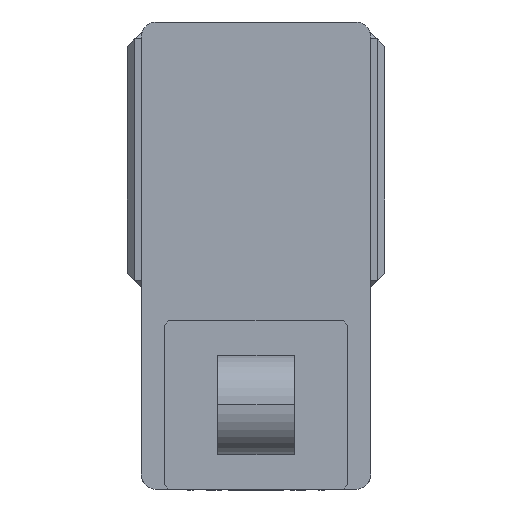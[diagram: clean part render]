
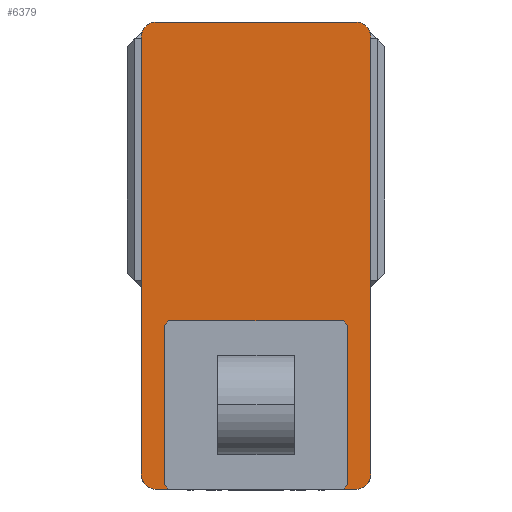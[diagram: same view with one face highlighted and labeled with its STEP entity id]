
A CAD part, left-side view. The second image highlights one B-rep face of the part: STEP entity #6379.
In plain terms, the highlighted planar face has unit normal (-1, 0, 0) as drawn and (0, 0, 1) by its records, which use the part's own axes.
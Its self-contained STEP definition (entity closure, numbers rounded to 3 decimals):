
#462 = PLANE ( 'NONE',  #1752 ) ;
#584 = ORIENTED_EDGE ( 'NONE', *, *, #8175, .T. ) ;
#708 = ORIENTED_EDGE ( 'NONE', *, *, #2287, .T. ) ;
#865 = CARTESIAN_POINT ( 'NONE',  ( 75., 152.5, 105. ) ) ;
#1254 = LINE ( 'NONE', #7892, #10088 ) ;
#1323 = DIRECTION ( 'NONE',  ( 0., 0., 1. ) ) ;
#1492 = CARTESIAN_POINT ( 'NONE',  ( -75., 152.5, 105. ) ) ;
#1527 = VERTEX_POINT ( 'NONE', #7655 ) ;
#1752 = AXIS2_PLACEMENT_3D ( 'NONE', #10730, #1323, #7316 ) ;
#1866 = VECTOR ( 'NONE', #6585, 1000. ) ;
#2287 = EDGE_CURVE ( 'NONE', #1527, #10214, #10400, .T. ) ;
#2454 = VERTEX_POINT ( 'NONE', #7304 ) ;
#2813 = CARTESIAN_POINT ( 'NONE',  ( -65., -142.5, 105. ) ) ;
#2832 = CARTESIAN_POINT ( 'NONE',  ( 75., 142.5, 105. ) ) ;
#3036 = DIRECTION ( 'NONE',  ( 0., 0., 1. ) ) ;
#3281 = EDGE_LOOP ( 'NONE', ( #3464, #6760, #3964, #584, #4575, #6706, #5115, #708 ) ) ;
#3464 = ORIENTED_EDGE ( 'NONE', *, *, #9684, .T. ) ;
#3621 = CARTESIAN_POINT ( 'NONE',  ( -65., 142.5, 105. ) ) ;
#3630 = EDGE_CURVE ( 'NONE', #7857, #2454, #4715, .T. ) ;
#3672 = DIRECTION ( 'NONE',  ( 1., 0., 0. ) ) ;
#3793 = DIRECTION ( 'NONE',  ( 0., 0., 1. ) ) ;
#3950 = VERTEX_POINT ( 'NONE', #2832 ) ;
#3964 = ORIENTED_EDGE ( 'NONE', *, *, #10877, .T. ) ;
#4050 = DIRECTION ( 'NONE',  ( 0., -1., 0. ) ) ;
#4326 = DIRECTION ( 'NONE',  ( 0., 1., 0. ) ) ;
#4360 = VERTEX_POINT ( 'NONE', #10045 ) ;
#4499 = DIRECTION ( 'NONE',  ( 1., 0., 0. ) ) ;
#4575 = ORIENTED_EDGE ( 'NONE', *, *, #3630, .T. ) ;
#4694 = EDGE_CURVE ( 'NONE', #10782, #1527, #10701, .T. ) ;
#4715 = LINE ( 'NONE', #5727, #1866 ) ;
#5115 = ORIENTED_EDGE ( 'NONE', *, *, #4694, .T. ) ;
#5398 = FACE_OUTER_BOUND ( 'NONE', #3281, .T. ) ;
#5663 = CARTESIAN_POINT ( 'NONE',  ( 65., 152.5, 105. ) ) ;
#5727 = CARTESIAN_POINT ( 'NONE',  ( -75., 152.5, 105. ) ) ;
#5793 = CIRCLE ( 'NONE', #7830, 10. ) ;
#6312 = EDGE_CURVE ( 'NONE', #4360, #9837, #10476, .T. ) ;
#6347 = AXIS2_PLACEMENT_3D ( 'NONE', #2813, #8787, #3672 ) ;
#6379 = ADVANCED_FACE ( 'NONE', ( #5398 ), #462, .T. ) ;
#6406 = CARTESIAN_POINT ( 'NONE',  ( 75., -142.5, 105. ) ) ;
#6585 = DIRECTION ( 'NONE',  ( -1., 0., 0. ) ) ;
#6646 = CIRCLE ( 'NONE', #11052, 10. ) ;
#6706 = ORIENTED_EDGE ( 'NONE', *, *, #10367, .T. ) ;
#6760 = ORIENTED_EDGE ( 'NONE', *, *, #6312, .T. ) ;
#7304 = CARTESIAN_POINT ( 'NONE',  ( -65., 152.5, 105. ) ) ;
#7316 = DIRECTION ( 'NONE',  ( 1., 0., 0. ) ) ;
#7602 = CARTESIAN_POINT ( 'NONE',  ( -75., 142.5, 105. ) ) ;
#7655 = CARTESIAN_POINT ( 'NONE',  ( -75., -142.5, 105. ) ) ;
#7689 = AXIS2_PLACEMENT_3D ( 'NONE', #8919, #3793, #9778 ) ;
#7830 = AXIS2_PLACEMENT_3D ( 'NONE', #3621, #9593, #4499 ) ;
#7857 = VERTEX_POINT ( 'NONE', #5663 ) ;
#7892 = CARTESIAN_POINT ( 'NONE',  ( -75., -152.5, 105. ) ) ;
#8173 = CARTESIAN_POINT ( 'NONE',  ( 65., 142.5, 105. ) ) ;
#8175 = EDGE_CURVE ( 'NONE', #3950, #7857, #6646, .T. ) ;
#8745 = DIRECTION ( 'NONE',  ( 1., 0., 0. ) ) ;
#8787 = DIRECTION ( 'NONE',  ( 0., 0., 1. ) ) ;
#8919 = CARTESIAN_POINT ( 'NONE',  ( 65., -142.5, 105. ) ) ;
#9029 = DIRECTION ( 'NONE',  ( 1., 0., 0. ) ) ;
#9405 = CARTESIAN_POINT ( 'NONE',  ( -65., -152.5, 105. ) ) ;
#9506 = VECTOR ( 'NONE', #4326, 1000. ) ;
#9593 = DIRECTION ( 'NONE',  ( 0., 0., 1. ) ) ;
#9684 = EDGE_CURVE ( 'NONE', #10214, #4360, #1254, .T. ) ;
#9778 = DIRECTION ( 'NONE',  ( 1., 0., 0. ) ) ;
#9788 = LINE ( 'NONE', #865, #9506 ) ;
#9837 = VERTEX_POINT ( 'NONE', #6406 ) ;
#10045 = CARTESIAN_POINT ( 'NONE',  ( 65., -152.5, 105. ) ) ;
#10088 = VECTOR ( 'NONE', #8745, 1000. ) ;
#10147 = VECTOR ( 'NONE', #4050, 1000. ) ;
#10214 = VERTEX_POINT ( 'NONE', #9405 ) ;
#10367 = EDGE_CURVE ( 'NONE', #2454, #10782, #5793, .T. ) ;
#10400 = CIRCLE ( 'NONE', #6347, 10. ) ;
#10476 = CIRCLE ( 'NONE', #7689, 10. ) ;
#10701 = LINE ( 'NONE', #1492, #10147 ) ;
#10730 = CARTESIAN_POINT ( 'NONE',  ( 0., 0., 105. ) ) ;
#10782 = VERTEX_POINT ( 'NONE', #7602 ) ;
#10877 = EDGE_CURVE ( 'NONE', #9837, #3950, #9788, .T. ) ;
#11052 = AXIS2_PLACEMENT_3D ( 'NONE', #8173, #3036, #9029 ) ;
